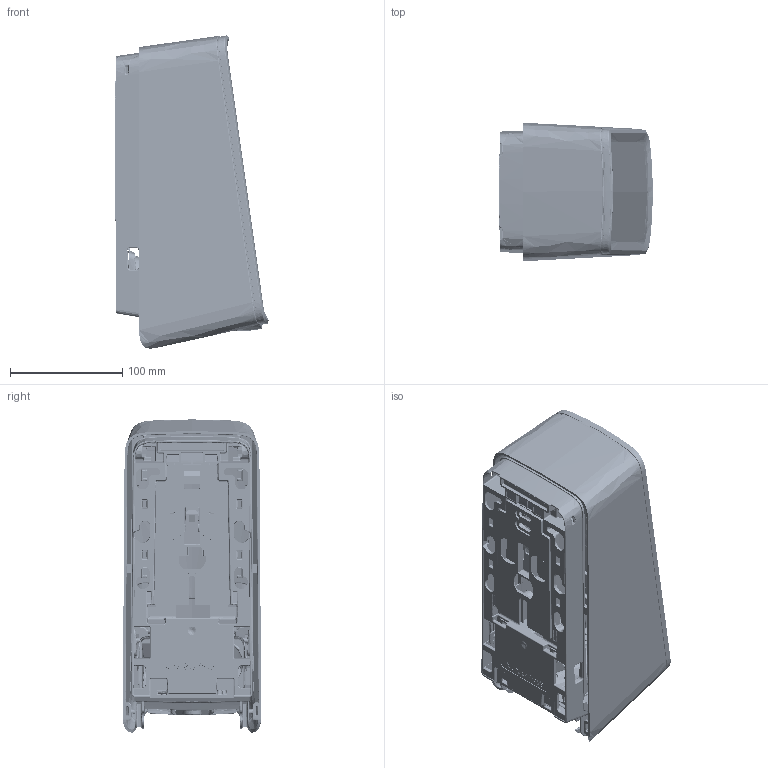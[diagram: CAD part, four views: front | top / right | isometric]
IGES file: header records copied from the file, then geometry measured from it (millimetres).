
Start section: SolidWorks IGES file using analytic representation for surfaces
Global section: file name: C:\Users\Markus.Rueckheim\OneDrive - CWS Group\Product Lines HY & FC\3000_Products\3600_Produktunterlagen\PureLine\Architektendaten\PureLine Liquid NT final.IGS; native system: SolidWorks 2023; preprocessor: SolidWorks 2023; author: Markus.Rueckheim; date: 241121.111756; units: millimetre
Bounding box: 136.5 x 123.2 x 278.35 mm (x, y, z)
Surface area: 417212.6 mm2 (no closed solid volume)
Topology: 0 solids, 0 shells, 9503 faces, 77930 edges, 77435 vertices
Faces by surface type: bspline 6486, revolution 3017
